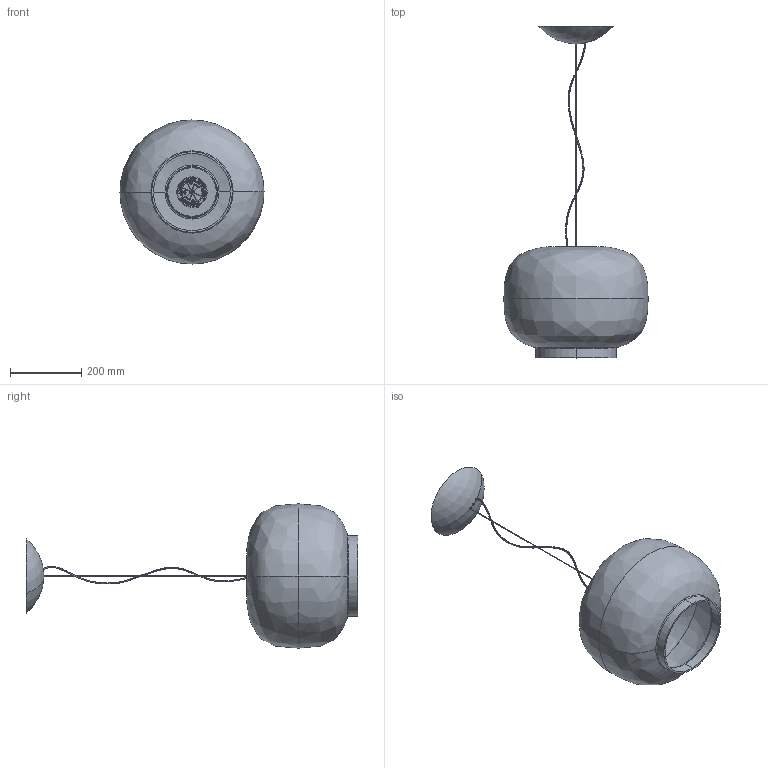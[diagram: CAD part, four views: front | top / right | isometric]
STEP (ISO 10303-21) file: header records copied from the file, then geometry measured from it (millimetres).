
FILE_DESCRIPTION (( 'STEP AP214' ), '1' );
FILE_NAME ('210_1_S_LD_3D.STEP', '2021-05-19T12:31:59', ( '' ), ( '' ), 'SwSTEP 2.0', 'SolidWorks 2021', '' );
FILE_SCHEMA (( 'AUTOMOTIVE_DESIGN' ));
Length unit declared in the file: millimetre
Products named in the file (1): 210_1_S_LD_3D
Bounding box: 404 x 929.89 x 404 mm (x, y, z)
Volume: 3216711 mm3; surface area: 1017575.2 mm2
Topology: 7 solids, 7 shells, 1345 faces, 3470 edges, 2106 vertices
Faces by surface type: bspline 485, plane 342, cylinder 208, torus 173, cone 103, sphere 34
Entity records: 69012 total; most frequent: CARTESIAN_POINT 26042, ORIENTED_EDGE 6792, DIRECTION 4653, EDGE_CURVE 3396, VERTEX_POINT 2106, AXIS2_PLACEMENT_3D 1915, EDGE_LOOP 1418, B_SPLINE_CURVE_WITH_KNOTS 1366
